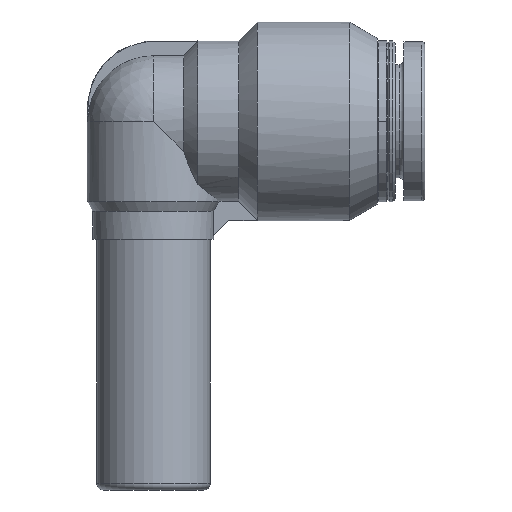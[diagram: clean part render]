
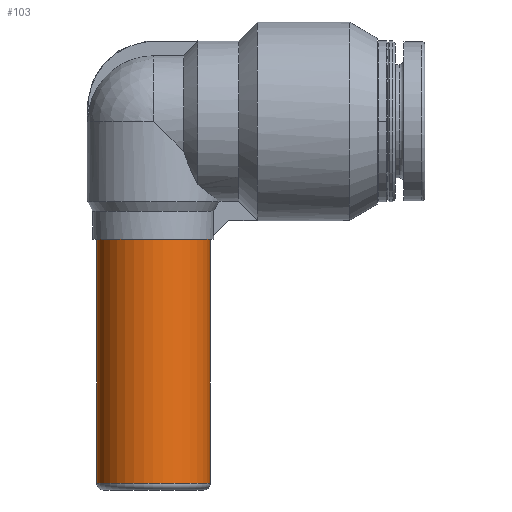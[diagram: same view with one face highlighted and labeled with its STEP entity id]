
A CAD part, front view. The second image highlights one B-rep face of the part: STEP entity #103.
In plain terms, the highlighted cylindrical face has radius 6 mm (diameter 12 mm), a partial arc.
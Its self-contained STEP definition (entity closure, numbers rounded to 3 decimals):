
#103=ADVANCED_FACE('PLGJ12-10',(#180),#139,.T.);
#139=CYLINDRICAL_SURFACE('',#1508,6.);
#180=FACE_OUTER_BOUND('',#1014,.T.);
#237=CIRCLE('',#1464,6.);
#259=CIRCLE('',#1507,6.);
#428=ORIENTED_EDGE('',*,*,#633,.T.);
#429=ORIENTED_EDGE('',*,*,#589,.T.);
#430=ORIENTED_EDGE('',*,*,#634,.F.);
#431=ORIENTED_EDGE('',*,*,#635,.T.);
#589=EDGE_CURVE('61',#928,#927,#237,.T.);
#633=EDGE_CURVE('109',#960,#928,#875,.T.);
#634=EDGE_CURVE('58',#961,#927,#876,.T.);
#635=EDGE_CURVE('60',#961,#960,#259,.T.);
#835=VECTOR('',#1558,25.8);
#836=VECTOR('',#1558,25.8);
#875=LINE('',#1331,#835);
#876=LINE('',#1333,#836);
#927=VERTEX_POINT('60',#1157);
#928=VERTEX_POINT('34',#1158);
#960=VERTEX_POINT('36',#1330);
#961=VERTEX_POINT('59',#1332);
#1014=EDGE_LOOP('',(#428,#429,#430,#431));
#1157=CARTESIAN_POINT('',(-6.,0.,-12.5));
#1158=CARTESIAN_POINT('',(6.,0.,-12.5));
#1160=CARTESIAN_POINT('',(0.,0.,-12.5));
#1330=CARTESIAN_POINT('',(6.,0.,-38.3));
#1331=CARTESIAN_POINT('',(6.,0.,-38.3));
#1332=CARTESIAN_POINT('',(-6.,0.,-38.3));
#1333=CARTESIAN_POINT('',(-6.,0.,-38.3));
#1334=CARTESIAN_POINT('',(0.,0.,-38.3));
#1335=CARTESIAN_POINT('',(0.,0.,-38.3));
#1464=AXIS2_PLACEMENT_3D('',#1160,#1576,#1559);
#1507=AXIS2_PLACEMENT_3D('',#1334,#1558,#1560);
#1508=AXIS2_PLACEMENT_3D('',#1335,#1558,#1560);
#1558=DIRECTION('',(0.,0.,1.));
#1559=DIRECTION('',(1.,0.,0.));
#1560=DIRECTION('',(-1.,0.,0.));
#1576=DIRECTION('',(0.,0.,-1.));
